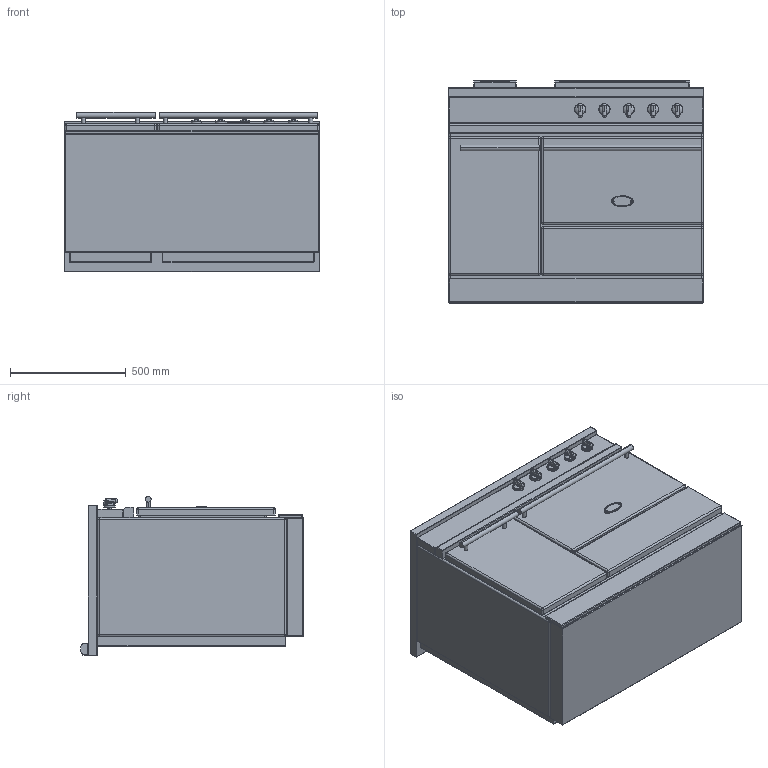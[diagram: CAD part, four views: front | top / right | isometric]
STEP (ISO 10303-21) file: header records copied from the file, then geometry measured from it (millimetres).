
FILE_DESCRIPTION((''),'2;1');
FILE_NAME('LMVTR1141_CHASSAGNE_ASM','2022-04-13T11:27:09',('stagiaire'),(''),'CREO PARAMETRIC BY PTC INC, 2021424','CREO PARAMETRIC BY PTC INC, 2021424','');
FILE_SCHEMA(('AP203_CONFIGURATION_CONTROLLED_3D_DESIGN_OF_MECHANICAL_PARTS_AND_ASSEMBLIES_MIM_LF { 1 0 10303 403 2 1 2 }'));
Products named in the file (13): BASE_EXP_CHASSAGNE_LMVTR1141; 65049009; 65650001; 65064012; 19150009; 88064012_ASM; BASE_EXPORT_CHASSAGNE_LMVTR1141_ASM; TABLE_1105G_INDUCTION_ET_VTR; 65052002; CHEMINEE_2020_LG182_EXPORT_STEP; CHEMINEE_2020_LG582_EXPORT_STEP; TABLE_1105G_VTR_ASM; LMVTR1141_CHASSAGNE_ASM
Assembly tree (16 placements, depth 4):
  LMVTR1141_CHASSAGNE_ASM
    BASE_EXPORT_CHASSAGNE_LMVTR1141_ASM
      BASE_EXP_CHASSAGNE_LMVTR1141
      65049009
      65650001
      88064012_ASM  x5
        65064012
        19150009
    TABLE_1105G_VTR_ASM
      TABLE_1105G_INDUCTION_ET_VTR
      65052002
      CHEMINEE_2020_LG182_EXPORT_STEP
      CHEMINEE_2020_LG582_EXPORT_STEP
Bounding box: 1105 x 963.5 x 688.5 mm (x, y, z)
Volume: 595666019.7 mm3; surface area: 9184457 mm2
Topology: 21 solids, 21 shells, 2230 faces, 6384 edges, 4049 vertices
Faces by surface type: cylinder 894, plane 872, sphere 200, bspline 178, torus 58, cone 26, extrusion 2
Entity records: 72249 total; most frequent: CARTESIAN_POINT 19480, ORIENTED_EDGE 9550, DIRECTION 9504, EDGE_CURVE 4775, VECTOR 3454, LINE 3452, VERTEX_POINT 3057, AXIS2_PLACEMENT_3D 3007
